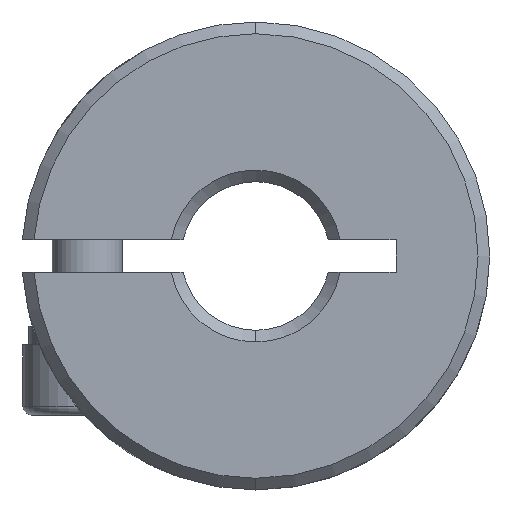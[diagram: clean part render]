
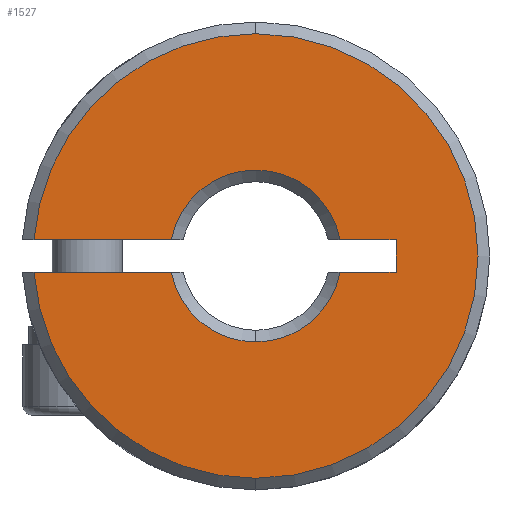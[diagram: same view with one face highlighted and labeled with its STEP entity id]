
A CAD part, front view. The second image highlights one B-rep face of the part: STEP entity #1527.
In plain terms, the highlighted planar face has unit normal (0, -1, 0).
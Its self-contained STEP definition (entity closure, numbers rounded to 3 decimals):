
#26 = CARTESIAN_POINT ( 'NONE',  ( 0., 0.25, -9.5 ) ) ;
#46 = CARTESIAN_POINT ( 'NONE',  ( 0., 0.25, 0. ) ) ;
#69 = EDGE_CURVE ( 'NONE', #3485, #897, #84, .T. ) ;
#84 = CIRCLE ( 'NONE', #3046, 9.5 ) ;
#122 = DIRECTION ( 'NONE',  ( 0., 0., 1. ) ) ;
#152 = EDGE_CURVE ( 'NONE', #811, #1476, #504, .T. ) ;
#154 = PLANE ( 'NONE',  #2580 ) ;
#223 = DIRECTION ( 'NONE',  ( 0., -1., 0. ) ) ;
#230 = VERTEX_POINT ( 'NONE', #481 ) ;
#274 = ORIENTED_EDGE ( 'NONE', *, *, #3515, .T. ) ;
#315 = DIRECTION ( 'NONE',  ( 0., 0., 1. ) ) ;
#352 = VERTEX_POINT ( 'NONE', #2104 ) ;
#481 = CARTESIAN_POINT ( 'NONE',  ( 6., 0.25, -0.7 ) ) ;
#488 = CARTESIAN_POINT ( 'NONE',  ( -3.608, 0.25, -0.7 ) ) ;
#489 = EDGE_CURVE ( 'NONE', #1684, #1923, #2281, .T. ) ;
#494 = DIRECTION ( 'NONE',  ( 1., 0., 0. ) ) ;
#504 = CIRCLE ( 'NONE', #679, 9.5 ) ;
#523 = VERTEX_POINT ( 'NONE', #3078 ) ;
#563 = EDGE_CURVE ( 'NONE', #352, #1476, #3567, .T. ) ;
#623 = CARTESIAN_POINT ( 'NONE',  ( 6., 0.25, 0.7 ) ) ;
#679 = AXIS2_PLACEMENT_3D ( 'NONE', #2444, #223, #2178 ) ;
#699 = DIRECTION ( 'NONE',  ( 0., 0., 1. ) ) ;
#722 = EDGE_LOOP ( 'NONE', ( #731, #1811, #274, #3554, #2180, #2201, #3295, #1446, #3529, #3117, #1837 ) ) ;
#731 = ORIENTED_EDGE ( 'NONE', *, *, #1590, .F. ) ;
#752 = DIRECTION ( 'NONE',  ( 0., 0., 1. ) ) ;
#779 = FACE_OUTER_BOUND ( 'NONE', #722, .T. ) ;
#811 = VERTEX_POINT ( 'NONE', #3375 ) ;
#820 = CIRCLE ( 'NONE', #3329, 3.675 ) ;
#897 = VERTEX_POINT ( 'NONE', #26 ) ;
#909 = EDGE_CURVE ( 'NONE', #1684, #230, #3011, .T. ) ;
#926 = EDGE_CURVE ( 'NONE', #1923, #2648, #820, .T. ) ;
#1097 = EDGE_CURVE ( 'NONE', #1490, #523, #1717, .T. ) ;
#1111 = LINE ( 'NONE', #3002, #1158 ) ;
#1158 = VECTOR ( 'NONE', #494, 1000. ) ;
#1181 = DIRECTION ( 'NONE',  ( 0., 0., 1. ) ) ;
#1324 = CARTESIAN_POINT ( 'NONE',  ( 6., 0.25, 0.7 ) ) ;
#1439 = DIRECTION ( 'NONE',  ( 0., 1., 0. ) ) ;
#1446 = ORIENTED_EDGE ( 'NONE', *, *, #1781, .F. ) ;
#1462 = CARTESIAN_POINT ( 'NONE',  ( 0., 0.25, 0. ) ) ;
#1476 = VERTEX_POINT ( 'NONE', #3164 ) ;
#1490 = VERTEX_POINT ( 'NONE', #1324 ) ;
#1519 = DIRECTION ( 'NONE',  ( 0., 0., 1. ) ) ;
#1527 = ADVANCED_FACE ( 'NONE', ( #779 ), #154, .F. ) ;
#1569 = CIRCLE ( 'NONE', #2254, 3.675 ) ;
#1573 = VECTOR ( 'NONE', #2245, 1000. ) ;
#1590 = EDGE_CURVE ( 'NONE', #3485, #2648, #1111, .T. ) ;
#1608 = CIRCLE ( 'NONE', #3358, 9.5 ) ;
#1628 = LINE ( 'NONE', #3282, #3333 ) ;
#1684 = VERTEX_POINT ( 'NONE', #3596 ) ;
#1717 = LINE ( 'NONE', #623, #1765 ) ;
#1720 = CARTESIAN_POINT ( 'NONE',  ( 6., 0.25, 0.7 ) ) ;
#1729 = DIRECTION ( 'NONE',  ( -1., 0., 0. ) ) ;
#1751 = CARTESIAN_POINT ( 'NONE',  ( 6., 0.25, -0.7 ) ) ;
#1765 = VECTOR ( 'NONE', #3391, 1000. ) ;
#1781 = EDGE_CURVE ( 'NONE', #230, #1490, #1628, .T. ) ;
#1808 = CARTESIAN_POINT ( 'NONE',  ( -9.474, 0.25, -0.7 ) ) ;
#1811 = ORIENTED_EDGE ( 'NONE', *, *, #69, .T. ) ;
#1837 = ORIENTED_EDGE ( 'NONE', *, *, #926, .T. ) ;
#1839 = CARTESIAN_POINT ( 'NONE',  ( 0., 0.25, 0. ) ) ;
#1923 = VERTEX_POINT ( 'NONE', #2878 ) ;
#1990 = AXIS2_PLACEMENT_3D ( 'NONE', #3057, #1439, #1181 ) ;
#2026 = DIRECTION ( 'NONE',  ( 0., -1., 0. ) ) ;
#2104 = CARTESIAN_POINT ( 'NONE',  ( -3.608, 0.25, 0.7 ) ) ;
#2137 = DIRECTION ( 'NONE',  ( 0., 1., 0. ) ) ;
#2178 = DIRECTION ( 'NONE',  ( 0., 0., 1. ) ) ;
#2180 = ORIENTED_EDGE ( 'NONE', *, *, #563, .F. ) ;
#2201 = ORIENTED_EDGE ( 'NONE', *, *, #2987, .T. ) ;
#2245 = DIRECTION ( 'NONE',  ( 1., 0., 0. ) ) ;
#2254 = AXIS2_PLACEMENT_3D ( 'NONE', #2309, #3131, #2583 ) ;
#2281 = CIRCLE ( 'NONE', #1990, 3.675 ) ;
#2309 = CARTESIAN_POINT ( 'NONE',  ( 0., 0.25, 0. ) ) ;
#2362 = DIRECTION ( 'NONE',  ( 0., -1., 0. ) ) ;
#2444 = CARTESIAN_POINT ( 'NONE',  ( 0., 0.25, 0. ) ) ;
#2580 = AXIS2_PLACEMENT_3D ( 'NONE', #2937, #2137, #122 ) ;
#2583 = DIRECTION ( 'NONE',  ( 0., 0., 1. ) ) ;
#2648 = VERTEX_POINT ( 'NONE', #488 ) ;
#2878 = CARTESIAN_POINT ( 'NONE',  ( 0., 0.25, -3.675 ) ) ;
#2907 = VECTOR ( 'NONE', #1729, 1000. ) ;
#2937 = CARTESIAN_POINT ( 'NONE',  ( -50., 0.25, 12. ) ) ;
#2987 = EDGE_CURVE ( 'NONE', #352, #523, #1569, .T. ) ;
#3002 = CARTESIAN_POINT ( 'NONE',  ( 6., 0.25, -0.7 ) ) ;
#3011 = LINE ( 'NONE', #1751, #1573 ) ;
#3046 = AXIS2_PLACEMENT_3D ( 'NONE', #1839, #2362, #699 ) ;
#3057 = CARTESIAN_POINT ( 'NONE',  ( 0., 0.25, 0. ) ) ;
#3078 = CARTESIAN_POINT ( 'NONE',  ( 3.608, 0.25, 0.7 ) ) ;
#3117 = ORIENTED_EDGE ( 'NONE', *, *, #489, .T. ) ;
#3131 = DIRECTION ( 'NONE',  ( 0., 1., 0. ) ) ;
#3164 = CARTESIAN_POINT ( 'NONE',  ( -9.474, 0.25, 0.7 ) ) ;
#3282 = CARTESIAN_POINT ( 'NONE',  ( 6., 0.25, 0.7 ) ) ;
#3295 = ORIENTED_EDGE ( 'NONE', *, *, #1097, .F. ) ;
#3329 = AXIS2_PLACEMENT_3D ( 'NONE', #1462, #3341, #315 ) ;
#3333 = VECTOR ( 'NONE', #752, 1000. ) ;
#3341 = DIRECTION ( 'NONE',  ( 0., 1., 0. ) ) ;
#3358 = AXIS2_PLACEMENT_3D ( 'NONE', #46, #2026, #1519 ) ;
#3375 = CARTESIAN_POINT ( 'NONE',  ( 0., 0.25, 9.5 ) ) ;
#3391 = DIRECTION ( 'NONE',  ( -1., 0., 0. ) ) ;
#3485 = VERTEX_POINT ( 'NONE', #1808 ) ;
#3515 = EDGE_CURVE ( 'NONE', #897, #811, #1608, .T. ) ;
#3529 = ORIENTED_EDGE ( 'NONE', *, *, #909, .F. ) ;
#3554 = ORIENTED_EDGE ( 'NONE', *, *, #152, .T. ) ;
#3567 = LINE ( 'NONE', #1720, #2907 ) ;
#3596 = CARTESIAN_POINT ( 'NONE',  ( 3.608, 0.25, -0.7 ) ) ;
